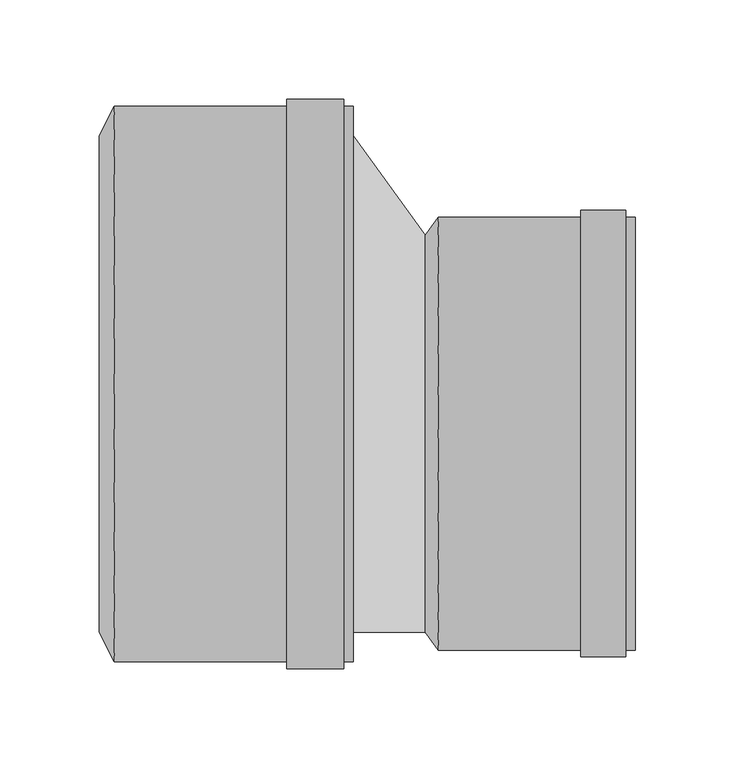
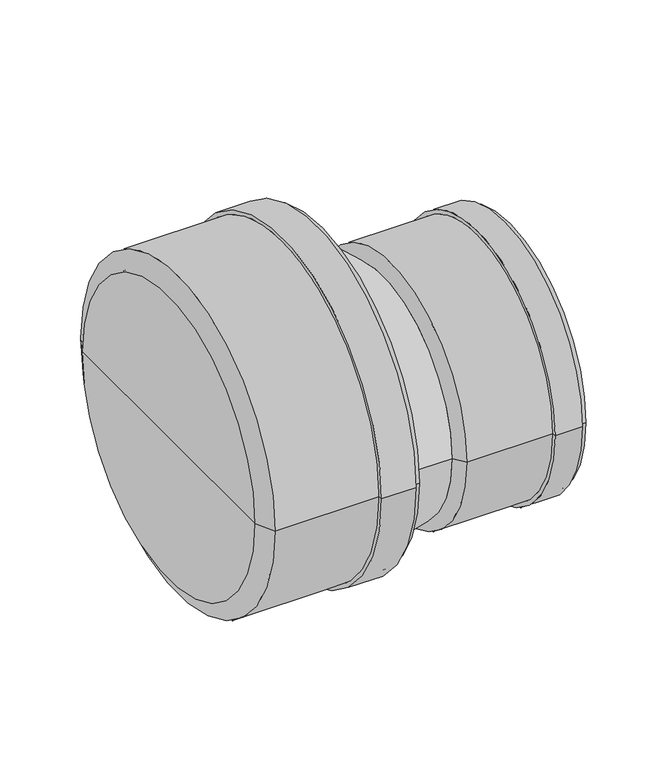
"""IFC4 building model written with IfcOpenShell, lengths in millimetres: pipe fitting geometry, pf_KGR_red-nes : pf_KGR_red-nes."""

import ifcopenshell
import ifcopenshell.guid

model = None  # the IFC model being written
_history = None  # IfcOwnerHistory: only IFC2X3 demands one
_inside = {}  # id of a spatial element -> (the spatial element, [elements in it])
_under = {}  # id of a project, library or spatial element -> (it, [spatial elements below it])
_declared = {}  # id of a project -> (the project, [libraries it declares])
_typed = {}  # id of a type object -> (the type object, [elements of that type])
_made_of = {}  # id of a material, layer set ... -> (it, [elements and type objects made of it])


def new_model(schema):
    """Start an empty IFC model of exactly this schema.

    Asked for "IFC4X3", IfcOpenShell would pick the latest addendum, in which some entities
    have other attributes; the version numbers below select the first issue.
    IFC2X3 requires an IfcOwnerHistory on every rooted entity: one is made here for all.
    """
    global model, _history
    if schema == "IFC4X3":
        model = ifcopenshell.file(schema_version=(4, 3, 0, 0))
    else:
        model = ifcopenshell.file(schema=schema)
    _inside.clear()
    _under.clear()
    _declared.clear()
    _typed.clear()
    _made_of.clear()
    _history = None
    if model.schema == "IFC2X3":
        org = make("IfcOrganization", Name="unknown")
        user = make(
            "IfcPersonAndOrganization",
            ThePerson=make("IfcPerson", FamilyName="unknown"),
            TheOrganization=org,
        )
        app = make(
            "IfcApplication",
            ApplicationDeveloper=org,
            Version="unknown",
            ApplicationFullName="unknown",
            ApplicationIdentifier="unknown",
        )
        _history = make(
            "IfcOwnerHistory",
            OwningUser=user,
            OwningApplication=app,
            ChangeAction="ADDED",
            CreationDate=0,
        )
    return model


def make(cls, **values):
    """One entity of the class cls with the attributes given. An attribute that is None is left unset."""
    return model.create_entity(
        cls, **{name: value for name, value in values.items() if value is not None}
    )


def rooted(cls, **values):
    """An entity with a GlobalId (a new one), such as an element, a storey or a relation."""
    return make(cls, GlobalId=ifcopenshell.guid.new(), OwnerHistory=_history, **values)


def si_unit(unit_type, name, prefix=None):
    """IfcSIUnit, for example si_unit("LENGTHUNIT", "METRE", prefix="MILLI")."""
    return make("IfcSIUnit", UnitType=unit_type, Prefix=prefix, Name=name)


def assignment(units):
    """IfcUnitAssignment: the units of a project."""
    return None if units is None else make("IfcUnitAssignment", Units=units)


def point(xyz):
    """IfcCartesianPoint."""
    return None if xyz is None else make("IfcCartesianPoint", Coordinates=xyz)


def direction(xyz):
    """IfcDirection."""
    return None if xyz is None else make("IfcDirection", DirectionRatios=xyz)


def frame(location, z_axis=None, x_axis=None):
    """IfcAxis2Placement3D, a coordinate frame: its origin and axes. An axis left out is left unset."""
    return make(
        "IfcAxis2Placement3D",
        Location=point(location),
        Axis=direction(z_axis),
        RefDirection=direction(x_axis),
    )


def origin():
    """The frame at (0, 0, 0) with its axes left unset."""
    return frame((0.0, 0.0, 0.0))


def place(relative_to, where):
    """IfcLocalPlacement: puts the frame where relative to a parent placement (None: the world)."""
    return make(
        "IfcLocalPlacement", PlacementRelTo=relative_to, RelativePlacement=where
    )


def context(
    kind, dimensions, precision=None, world=None, true_north=None, identifier=None
):
    """IfcGeometricRepresentationContext, for example the 3D "Model" context."""
    return make(
        "IfcGeometricRepresentationContext",
        ContextIdentifier=identifier,
        ContextType=kind,
        CoordinateSpaceDimension=dimensions,
        Precision=precision,
        WorldCoordinateSystem=world,
        TrueNorth=true_north,
    )


def project(units=None, contexts=None):
    """IfcProject with its units and contexts."""
    return rooted(
        "IfcProject",
        Name="project",
        RepresentationContexts=contexts,
        UnitsInContext=assignment(units),
    )


def spatial(cls, under=None, at=None, **own):
    """A site, building, storey or space (cls), placed at a placement, below another one or the project."""
    s = rooted(cls, ObjectPlacement=at, **own)
    if under is not None:
        _under.setdefault(under.id(), (under, []))[1].append(s)
    return s


def polyline(points):
    """IfcPolyline through the points."""
    return make("IfcPolyline", Points=[point(p) for p in points])


def circle_curve(where, radius):
    """IfcCircle in the frame where."""
    return make("IfcCircle", Position=where, Radius=radius)


def shape(context_of_items, identifier, shape_type, items):
    """IfcShapeRepresentation: the items that make up one representation, for example the "Body"."""
    return make(
        "IfcShapeRepresentation",
        ContextOfItems=context_of_items,
        RepresentationIdentifier=identifier,
        RepresentationType=shape_type,
        Items=items,
    )


def source(mapping_origin, context_of_items, identifier, shape_type, items):
    """IfcRepresentationMap: a shape defined once, which mapped items show again and again."""
    return make(
        "IfcRepresentationMap",
        MappingOrigin=mapping_origin,
        MappedRepresentation=shape(context_of_items, identifier, shape_type, items),
    )


def transform(
    local_origin,
    x_axis=None,
    y_axis=None,
    z_axis=None,
    scale=None,
    scale2=None,
    scale3=None,
    uniform=True,
):
    """IfcCartesianTransformationOperator3D, or its non-uniform kind. x_axis, y_axis, z_axis: its Axis1, 2, 3."""
    if uniform:
        return make(
            "IfcCartesianTransformationOperator3D",
            Axis1=direction(x_axis),
            Axis2=direction(y_axis),
            LocalOrigin=point(local_origin),
            Scale=scale,
            Axis3=direction(z_axis),
        )
    return make(
        "IfcCartesianTransformationOperator3DnonUniform",
        Axis1=direction(x_axis),
        Axis2=direction(y_axis),
        LocalOrigin=point(local_origin),
        Scale=scale,
        Axis3=direction(z_axis),
        Scale2=scale2,
        Scale3=scale3,
    )


def mapped(mapping_source, mapping_target):
    """IfcMappedItem: shows the shape of a source again, moved by a transform."""
    return make(
        "IfcMappedItem", MappingSource=mapping_source, MappingTarget=mapping_target
    )


def made_of(thing, what):
    """Note that an element or type object is made of a material, layer set ...; save() writes the relation."""
    if what is not None:
        _made_of.setdefault(what.id(), (what, []))[1].append(thing)
    return thing


def element(
    cls,
    number,
    at=None,
    inside=None,
    cuts=None,
    type_object=None,
    material=None,
    context=None,
    identifier="Body",
    shape_type=None,
    held_by="IfcProductDefinitionShape",
    body=None,
    shapes=None,
    **own,
):
    """One element of the class cls, such as IfcWall. Its Tag is "e" and its number.

    at: its placement. inside: the storey or other place that contains it. cuts: it is an
    opening in that element (IfcRelVoidsElement). A single representation is given by context,
    identifier, shape_type and body (its items); several are given by shapes. held_by: the class
    of the entity that holds the representations. save() writes the other relations.
    """
    e = rooted(cls, Tag="e%d" % number, ObjectPlacement=at, **own)
    if body is not None:
        shapes = [shape(context, identifier, shape_type, body)]
    if shapes is not None:
        e.Representation = make(held_by, Representations=shapes)
    if inside is not None:
        _inside.setdefault(inside.id(), (inside, []))[1].append(e)
    if cuts is not None:
        rooted(
            "IfcRelVoidsElement", RelatingBuildingElement=cuts, RelatedOpeningElement=e
        )
    if type_object is not None:
        _typed.setdefault(type_object.id(), (type_object, []))[1].append(e)
    return made_of(e, material)


def aggregate(whole, parts):
    """IfcRelAggregates: a whole, such as a stair, and the parts it consists of."""
    return rooted("IfcRelAggregates", RelatingObject=whole, RelatedObjects=parts)


def save(model, path):
    """Write the relations noted so far, then the file.

    IfcRelAggregates (storeys below a building ...), IfcRelContainedInSpatialStructure (elements
    in a storey), IfcRelDefinesByType, IfcRelAssociatesMaterial and IfcRelDeclares: one each for
    every whole, place, type object, material and project.
    """
    for whole, parts in _under.values():
        aggregate(whole, parts)
    for where, things in _inside.values():
        rooted(
            "IfcRelContainedInSpatialStructure",
            RelatedElements=things,
            RelatingStructure=where,
        )
    for kind, things in _typed.values():
        rooted("IfcRelDefinesByType", RelatedObjects=things, RelatingType=kind)
    for what, things in _made_of.values():
        rooted("IfcRelAssociatesMaterial", RelatedObjects=things, RelatingMaterial=what)
    for by, libraries in _declared.values():
        rooted("IfcRelDeclares", RelatingContext=by, RelatedDefinitions=libraries)
    model.write(path)


def plane_surface(at):
    """IfcPlane: the flat surface through the origin of the frame at, square to its z axis."""
    return make("IfcPlane", Position=at)


def cylinder_surface(at, radius):
    """IfcCylindricalSurface: all points at the distance radius from the z axis of the frame at."""
    return make("IfcCylindricalSurface", Position=at, Radius=radius)


def revolved_surface(curve, axis_point, axis_direction):
    """IfcSurfaceOfRevolution: the curve turned about the line through axis_point along axis_direction."""
    return make(
        "IfcSurfaceOfRevolution",
        SweptCurve=make("IfcArbitraryOpenProfileDef", ProfileType="CURVE", Curve=curve),
        AxisPosition=make("IfcAxis1Placement", Location=point(axis_point), Axis=direction(axis_direction)),
    )


def spline_surface(u_degree, v_degree, points, u_multiplicities, v_multiplicities, u_knots, v_knots, weights=None):
    """IfcBSplineSurfaceWithKnots; with weights, IfcRationalBSplineSurfaceWithKnots. points: one row for each step in u."""
    own = dict(
        UDegree=u_degree,
        VDegree=v_degree,
        ControlPointsList=[[point(p) for p in row] for row in points],
        SurfaceForm="UNSPECIFIED",
        UClosed=False,
        VClosed=False,
        SelfIntersect=False,
        UMultiplicities=u_multiplicities,
        VMultiplicities=v_multiplicities,
        UKnots=u_knots,
        VKnots=v_knots,
        KnotSpec="UNSPECIFIED",
    )
    if weights is None:
        return make("IfcBSplineSurfaceWithKnots", **own)
    return make("IfcRationalBSplineSurfaceWithKnots", WeightsData=weights, **own)


def advanced_brep(points, edges, surfaces, faces):
    """IfcAdvancedBrep: a solid bounded by faces that lie on surfaces and meet in shared edges.

    An edge is (start, end): straight between two places in points (the first is 0);
    or (start, end, curve); or (start, end, curve, False) where it runs against its curve.
    A face is (place in surfaces, loops), or (place, loops, False) where it looks against
    its surface's normal. A loop lists edges by number (the first is 1), with a minus sign
    where the edge is run from its end to its start. The first loop is the outer one.
    """
    corners = [point(p) for p in points]
    vertices = [make("IfcVertexPoint", VertexGeometry=c) for c in corners]
    made = []
    for start, end, *more in edges:
        made.append(
            make(
                "IfcEdgeCurve",
                EdgeStart=vertices[start],
                EdgeEnd=vertices[end],
                EdgeGeometry=more[0] if more else make("IfcPolyline", Points=[corners[start], corners[end]]),
                SameSense=more[1] if len(more) > 1 else True,
            )
        )
    hull = []
    for where, loops, *sense in faces:
        bounds = []
        for j, loop in enumerate(loops):
            ring = [make("IfcOrientedEdge", EdgeElement=made[abs(k) - 1], Orientation=k > 0) for k in loop]
            bounds.append(
                make(
                    "IfcFaceOuterBound" if j == 0 else "IfcFaceBound",
                    Bound=make("IfcEdgeLoop", EdgeList=ring),
                    Orientation=True,
                )
            )
        hull.append(make("IfcAdvancedFace", Bounds=bounds, FaceSurface=surfaces[where], SameSense=sense[0] if sense else True))
    return make("IfcAdvancedBrep", Outer=make("IfcClosedShell", CfsFaces=hull))


def pipe_fitting_febe9d38(model_context):
    return source(origin(), model_context, "Body", "AdvancedBrep", [
        advanced_brep(
        [(-128.0, -125.0, 0.0), (-128.0, 125.0, 0.0), (-120.3, 140.1, 0.0), (-120.3, -140.1, 0.0), (-128.0, 0.0, 0.0), (0.0, -140.1, 0.0), (0.0, 140.1, 0.0), (0.0, 125.0, 0.0), (0.0, -125.0, 0.0), (-4.8, -140.1, 0.0), (-4.8, 140.1, 0.0), (-4.8, -143.5, 0.0), (-4.8, 143.5, 0.0), (-33.5, -143.5, 0.0), (-33.5, 143.5, 0.0), (-33.5, -140.1, 0.0), (-33.5, 140.1, 0.0), (-120.3, -125.0, 0.0), (-120.3, 125.0, 0.0), (-120.3, 0.0, 0.0)],
        [
            (0, 1, circle_curve(frame((-128.0, 0.0, 0.0), z_axis=(1.0, 0.0, 0.0), x_axis=(0.0, 1.0, 0.0)), 125.0)),
            (1, 2),
            (2, 3, circle_curve(frame((-120.3, 0.0, 0.0), z_axis=(-1.0, 0.0, 0.0), x_axis=(0.0, 1.0, 0.0)), 140.1)),
            (3, 0),
            (1, 0, circle_curve(frame((-128.0, 0.0, 0.0), z_axis=(1.0, 0.0, 0.0), x_axis=(0.0, 1.0, 0.0)), 125.0)),
            (3, 2, circle_curve(frame((-120.3, 0.0, 0.0), z_axis=(-1.0, 0.0, 0.0), x_axis=(0.0, 1.0, 0.0)), 140.1)),
            (4, 1),
            (0, 4),
            (5, 6, circle_curve(frame((0.0, 0.0, 0.0), z_axis=(1.0, 0.0, 0.0), x_axis=(0.0, 1.0, 0.0)), 140.1)),
            (6, 7),
            (7, 8, circle_curve(frame((0.0, 0.0, 0.0), z_axis=(-1.0, 0.0, 0.0), x_axis=(0.0, 1.0, 0.0)), 125.0)),
            (8, 5),
            (6, 5, circle_curve(frame((0.0, 0.0, 0.0), z_axis=(1.0, 0.0, 0.0), x_axis=(0.0, 1.0, 0.0)), 140.1)),
            (8, 7, circle_curve(frame((0.0, 0.0, 0.0), z_axis=(-1.0, 0.0, 0.0), x_axis=(0.0, 1.0, 0.0)), 125.0)),
            (9, 10, circle_curve(frame((-4.8, 0.0, 0.0), z_axis=(1.0, 0.0, 0.0), x_axis=(0.0, 1.0, 0.0)), 140.1)),
            (10, 6),
            (5, 9),
            (10, 9, circle_curve(frame((-4.8, 0.0, 0.0), z_axis=(1.0, 0.0, 0.0), x_axis=(0.0, 1.0, 0.0)), 140.1)),
            (11, 12, circle_curve(frame((-4.8, 0.0, 0.0), z_axis=(1.0, 0.0, 0.0), x_axis=(0.0, 1.0, 0.0)), 143.5)),
            (12, 10),
            (9, 11),
            (12, 11, circle_curve(frame((-4.8, 0.0, 0.0), z_axis=(1.0, 0.0, 0.0), x_axis=(0.0, 1.0, 0.0)), 143.5)),
            (13, 14, circle_curve(frame((-33.5, 0.0, 0.0), z_axis=(1.0, 0.0, 0.0), x_axis=(0.0, 1.0, 0.0)), 143.5)),
            (14, 12),
            (11, 13),
            (14, 13, circle_curve(frame((-33.5, 0.0, 0.0), z_axis=(1.0, 0.0, 0.0), x_axis=(0.0, 1.0, 0.0)), 143.5)),
            (15, 16, circle_curve(frame((-33.5, 0.0, 0.0), z_axis=(1.0, 0.0, 0.0), x_axis=(0.0, 1.0, 0.0)), 140.1)),
            (16, 14),
            (13, 15),
            (16, 15, circle_curve(frame((-33.5, 0.0, 0.0), z_axis=(1.0, 0.0, 0.0), x_axis=(0.0, 1.0, 0.0)), 140.1)),
            (2, 16),
            (15, 3),
            (17, 18, circle_curve(frame((-120.3, 0.0, 0.0), z_axis=(1.0, 0.0, 0.0), x_axis=(0.0, 1.0, 0.0)), 125.0)),
            (18, 19),
            (19, 17),
            (18, 17, circle_curve(frame((-120.3, 0.0, 0.0), z_axis=(1.0, 0.0, 0.0), x_axis=(0.0, 1.0, 0.0)), 125.0)),
            (7, 18),
            (17, 8),
        ],
        [
            revolved_surface(polyline([(-120.3, 140.1, 0.0), (-128.0, 125.0, 0.0)]), (-128.0, 0.0, 0.0), (-1.0, 0.0, 0.0)),
            plane_surface(frame((-128.0, 0.0, 0.0), z_axis=(-1.0, 0.0, 0.0), x_axis=(0.0, 1.0, 0.0))),
            plane_surface(frame((0.0, 0.0, 0.0), z_axis=(1.0, 0.0, 0.0), x_axis=(0.0, 1.0, 0.0))),
            cylinder_surface(frame((-128.0, 0.0, 0.0), z_axis=(-1.0, 0.0, 0.0), x_axis=(0.0, 1.0, 0.0)), 140.1),
            plane_surface(frame((-4.8, 0.0, 0.0), z_axis=(1.0, 0.0, 0.0), x_axis=(0.0, 1.0, 0.0))),
            cylinder_surface(frame((-128.0, 0.0, 0.0), z_axis=(-1.0, 0.0, 0.0), x_axis=(0.0, 1.0, 0.0)), 143.5),
            plane_surface(frame((-33.5, 0.0, 0.0), z_axis=(-1.0, 0.0, 0.0), x_axis=(0.0, 1.0, 0.0))),
            plane_surface(frame((-120.3, 0.0, 0.0), z_axis=(1.0, 0.0, 0.0), x_axis=(0.0, 1.0, 0.0))),
            revolved_surface(polyline([(-120.3, 125.0, 0.0), (0.0, 125.0, 0.0)]), (-128.0, 0.0, 0.0), (-1.0, 0.0, 0.0)),
        ],
        [
            (0, [[1, 2, 3, 4]]),
            (0, [[5, -4, 6, -2]]),
            (1, [[7, -1, 8]]),
            (1, [[-8, -5, -7]]),
            (2, [[9, 10, 11, 12]]),
            (2, [[13, -12, 14, -10]]),
            (3, [[15, 16, -9, 17]]),
            (3, [[18, -17, -13, -16]]),
            (4, [[19, 20, -15, 21]]),
            (4, [[22, -21, -18, -20]]),
            (5, [[23, 24, -19, 25]]),
            (5, [[26, -25, -22, -24]]),
            (6, [[27, 28, -23, 29]]),
            (6, [[30, -29, -26, -28]]),
            (3, [[-3, 31, -27, 32]]),
            (3, [[-6, -32, -30, -31]]),
            (7, [[33, 34, 35]]),
            (7, [[36, -35, -34]]),
            (8, [[-11, 37, -33, 38]]),
            (8, [[-14, -38, -36, -37]]),
        ],
    ),
        advanced_brep(
        [(36.25, -125.0, 0.0), (36.25, 75.0, 0.0), (42.95, 84.1, 0.0), (42.95, -134.1, 0.0), (36.25, -25.0, 0.0), (142.25, -134.1, 0.0), (142.25, 84.1, 0.0), (142.25, 75.0, 0.0), (142.25, -125.0, 0.0), (137.45, -134.1, 0.0), (137.45, 84.1, 0.0), (137.45, -137.5, 0.0), (137.45, 87.5, 0.0), (114.65, -137.5, 0.0), (114.65, 87.5, 0.0), (114.65, -134.1, 0.0), (114.65, 84.1, 0.0), (42.95, -125.0, 0.0), (42.95, 75.0, 0.0), (42.95, -25.0, 0.0)],
        [
            (0, 1, circle_curve(frame((36.25, -25.0, 0.0), z_axis=(1.0, 0.0, 0.0), x_axis=(0.0, 1.0, 0.0)), 100.0)),
            (1, 2),
            (2, 3, circle_curve(frame((42.95, -25.0, 0.0), z_axis=(-1.0, 0.0, 0.0), x_axis=(0.0, 1.0, 0.0)), 109.1)),
            (3, 0),
            (1, 0, circle_curve(frame((36.25, -25.0, 0.0), z_axis=(1.0, 0.0, 0.0), x_axis=(0.0, 1.0, 0.0)), 100.0)),
            (3, 2, circle_curve(frame((42.95, -25.0, 0.0), z_axis=(-1.0, 0.0, 0.0), x_axis=(0.0, 1.0, 0.0)), 109.1)),
            (4, 1),
            (0, 4),
            (5, 6, circle_curve(frame((142.25, -25.0, 0.0), z_axis=(1.0, 0.0, 0.0), x_axis=(0.0, 1.0, 0.0)), 109.1)),
            (6, 7),
            (7, 8, circle_curve(frame((142.25, -25.0, 0.0), z_axis=(-1.0, 0.0, 0.0), x_axis=(0.0, 1.0, 0.0)), 100.0)),
            (8, 5),
            (6, 5, circle_curve(frame((142.25, -25.0, 0.0), z_axis=(1.0, 0.0, 0.0), x_axis=(0.0, 1.0, 0.0)), 109.1)),
            (8, 7, circle_curve(frame((142.25, -25.0, 0.0), z_axis=(-1.0, 0.0, 0.0), x_axis=(0.0, 1.0, 0.0)), 100.0)),
            (9, 10, circle_curve(frame((137.45, -25.0, 0.0), z_axis=(1.0, 0.0, 0.0), x_axis=(0.0, 1.0, 0.0)), 109.1)),
            (10, 6),
            (5, 9),
            (10, 9, circle_curve(frame((137.45, -25.0, 0.0), z_axis=(1.0, 0.0, 0.0), x_axis=(0.0, 1.0, 0.0)), 109.1)),
            (11, 12, circle_curve(frame((137.45, -25.0, 0.0), z_axis=(1.0, 0.0, 0.0), x_axis=(0.0, 1.0, 0.0)), 112.5)),
            (12, 10),
            (9, 11),
            (12, 11, circle_curve(frame((137.45, -25.0, 0.0), z_axis=(1.0, 0.0, 0.0), x_axis=(0.0, 1.0, 0.0)), 112.5)),
            (13, 14, circle_curve(frame((114.65, -25.0, 0.0), z_axis=(1.0, 0.0, 0.0), x_axis=(0.0, 1.0, 0.0)), 112.5)),
            (14, 12),
            (11, 13),
            (14, 13, circle_curve(frame((114.65, -25.0, 0.0), z_axis=(1.0, 0.0, 0.0), x_axis=(0.0, 1.0, 0.0)), 112.5)),
            (15, 16, circle_curve(frame((114.65, -25.0, 0.0), z_axis=(1.0, 0.0, 0.0), x_axis=(0.0, 1.0, 0.0)), 109.1)),
            (16, 14),
            (13, 15),
            (16, 15, circle_curve(frame((114.65, -25.0, 0.0), z_axis=(1.0, 0.0, 0.0), x_axis=(0.0, 1.0, 0.0)), 109.1)),
            (2, 16),
            (15, 3),
            (17, 18, circle_curve(frame((42.95, -25.0, 0.0), z_axis=(1.0, 0.0, 0.0), x_axis=(0.0, 1.0, 0.0)), 100.0)),
            (18, 19),
            (19, 17),
            (18, 17, circle_curve(frame((42.95, -25.0, 0.0), z_axis=(1.0, 0.0, 0.0), x_axis=(0.0, 1.0, 0.0)), 100.0)),
            (7, 18),
            (17, 8),
        ],
        [
            revolved_surface(polyline([(42.95, 84.1, 0.0), (36.25, 75.0, 0.0)]), (36.25, -25.0, 0.0), (-1.0, 0.0, 0.0)),
            plane_surface(frame((36.25, -25.0, 0.0), z_axis=(-1.0, 0.0, 0.0), x_axis=(0.0, 1.0, 0.0))),
            plane_surface(frame((142.25, -25.0, 0.0), z_axis=(1.0, 0.0, 0.0), x_axis=(0.0, 1.0, 0.0))),
            cylinder_surface(frame((36.25, -25.0, 0.0), z_axis=(-1.0, 0.0, 0.0), x_axis=(0.0, 1.0, 0.0)), 109.1),
            plane_surface(frame((137.45, -25.0, 0.0), z_axis=(1.0, 0.0, 0.0), x_axis=(0.0, 1.0, 0.0))),
            cylinder_surface(frame((36.25, -25.0, 0.0), z_axis=(-1.0, 0.0, 0.0), x_axis=(0.0, 1.0, 0.0)), 112.5),
            plane_surface(frame((114.65, -25.0, 0.0), z_axis=(-1.0, 0.0, 0.0), x_axis=(0.0, 1.0, 0.0))),
            plane_surface(frame((42.95, -25.0, 0.0), z_axis=(1.0, 0.0, 0.0), x_axis=(0.0, 1.0, 0.0))),
            revolved_surface(polyline([(42.95, 75.0, 0.0), (142.25, 75.0, 0.0)]), (36.25, -25.0, 0.0), (-1.0, 0.0, 0.0)),
        ],
        [
            (0, [[1, 2, 3, 4]]),
            (0, [[5, -4, 6, -2]]),
            (1, [[7, -1, 8]]),
            (1, [[-8, -5, -7]]),
            (2, [[9, 10, 11, 12]]),
            (2, [[13, -12, 14, -10]]),
            (3, [[15, 16, -9, 17]]),
            (3, [[18, -17, -13, -16]]),
            (4, [[19, 20, -15, 21]]),
            (4, [[22, -21, -18, -20]]),
            (5, [[23, 24, -19, 25]]),
            (5, [[26, -25, -22, -24]]),
            (6, [[27, 28, -23, 29]]),
            (6, [[30, -29, -26, -28]]),
            (3, [[-3, 31, -27, 32]]),
            (3, [[-6, -32, -30, -31]]),
            (7, [[33, 34, 35]]),
            (7, [[36, -35, -34]]),
            (8, [[-11, 37, -33, 38]]),
            (8, [[-14, -38, -36, -37]]),
        ],
    ),
        advanced_brep(
        [(36.25, -125.0, 0.0), (36.25, 75.0, 0.0), (0.0, -125.0, 0.0), (0.0, 125.0, 0.0)],
        [
            (0, 1, circle_curve(frame((36.25, -25.0, 0.0), z_axis=(1.0, 0.0, 0.0), x_axis=(0.0, 1.0, 0.0)), 100.0)),
            (1, 0, circle_curve(frame((36.25, -25.0, 0.0), z_axis=(1.0, 0.0, 0.0), x_axis=(0.0, 1.0, 0.0)), 100.0)),
            (2, 3, circle_curve(frame((0.0, 0.0, 0.0), z_axis=(-1.0, 0.0, 0.0), x_axis=(0.0, 1.0, 0.0)), 125.0)),
            (3, 2, circle_curve(frame((0.0, 0.0, 0.0), z_axis=(-1.0, 0.0, 0.0), x_axis=(0.0, 1.0, 0.0)), 125.0)),
            (3, 1),
            (0, 2),
        ],
        [
            plane_surface(frame((36.25, -25.0, 0.0), z_axis=(1.0, 0.0, 0.0), x_axis=(0.0, 0.0, -1.0))),
            plane_surface(frame((0.0, 0.0, 0.0), z_axis=(-1.0, 0.0, 0.0), x_axis=(0.0, 0.0, -1.0))),
            spline_surface(2, 1, [[(0.0, -125.0, 0.0), (36.25, -125.0, 0.0)], [(0.0, -125.0, -125.0), (36.25, -125.0, -100.0)], [(0.0, 0.0, -125.0), (36.25, -25.0, -100.0)], [(0.0, 125.0, -125.0), (36.25, 75.0, -100.0)], [(0.0, 125.0, 0.0), (36.25, 75.0, 0.0)]], [3, 2, 3], [2, 2], [0.0, 1.0, 2.0], [0.0, 1.0], weights=[[1.0, 1.0], [0.7071067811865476, 0.7071067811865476], [1.0, 1.0], [0.7071067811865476, 0.7071067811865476], [1.0, 1.0]]),
            spline_surface(2, 1, [[(0.0, 125.0, 0.0), (36.25, 75.0, 0.0)], [(0.0, 125.0, 125.0), (36.25, 75.0, 100.0)], [(0.0, 0.0, 125.0), (36.25, -25.0, 100.0)], [(0.0, -125.0, 125.0), (36.25, -125.0, 100.0)], [(0.0, -125.0, 0.0), (36.25, -125.0, 0.0)]], [3, 2, 3], [2, 2], [0.0, 1.0, 2.0], [0.0, 1.0], weights=[[1.0, 1.0], [0.7071067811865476, 0.7071067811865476], [1.0, 1.0], [0.7071067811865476, 0.7071067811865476], [1.0, 1.0]]),
        ],
        [
            (0, [[1, 2]]),
            (1, [[3, 4]]),
            (2, [[-4, 5, -1, 6]]),
            (3, [[-3, -6, -2, -5]]),
        ],
    ),
    ])


if __name__ == "__main__":
    model = new_model("IFC4")
    model_context = context("Model", 3, world=origin())
    ifc_project = project(units=[si_unit("LENGTHUNIT", "METRE", prefix="MILLI")], contexts=[model_context])
    site = spatial("IfcSite", under=ifc_project)
    building = spatial("IfcBuilding", under=site)
    placement = place(None, origin())
    pipe_fitting_shape = pipe_fitting_febe9d38(model_context)
    element("IfcPipeFitting", 1, ObjectType="pf_KGR_red-nes : pf_KGR_red-nes", at=placement, inside=building, context=model_context, shape_type="MappedRepresentation", body=[
        mapped(pipe_fitting_shape, transform((0.0, 0.0, 0.0), x_axis=(1.0, 0.0, 0.0), y_axis=(0.0, 1.0, 0.0), z_axis=(0.0, 0.0, 1.0))),
    ])
    save(model, "model.ifc")
